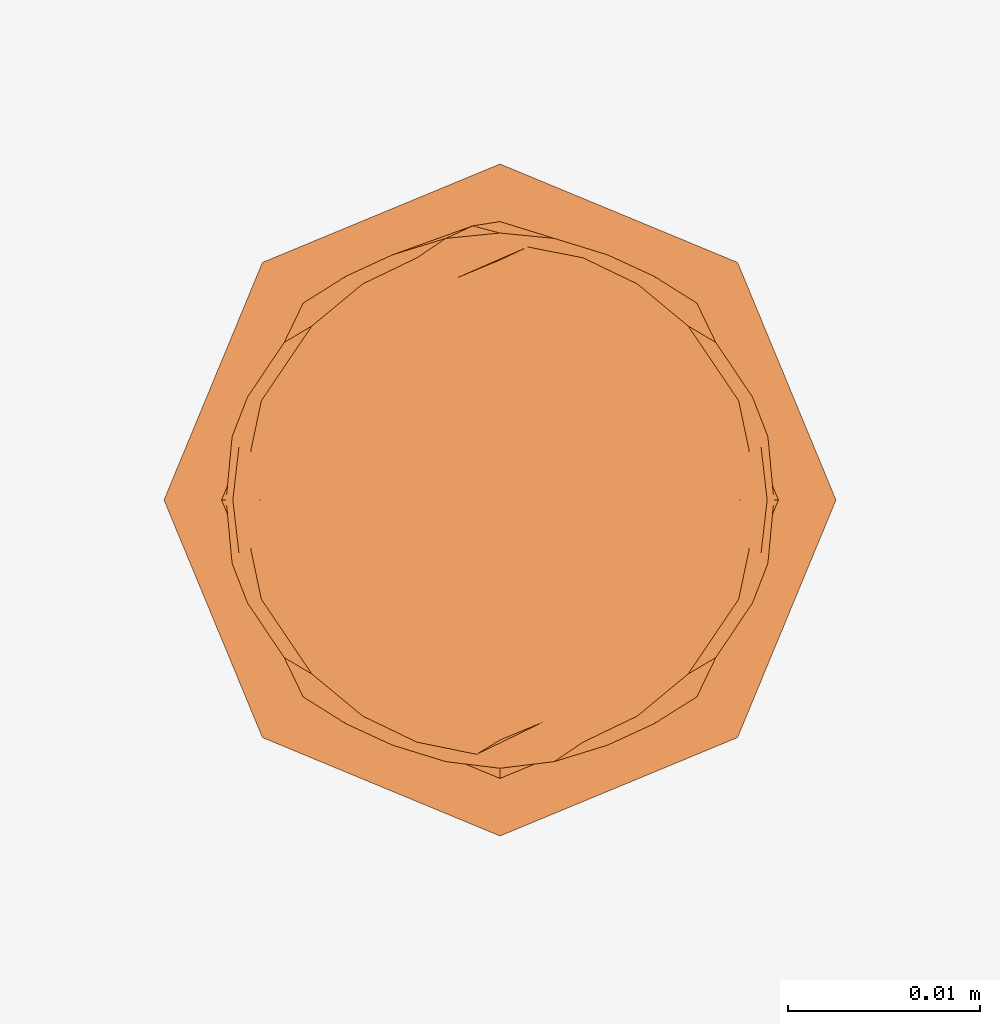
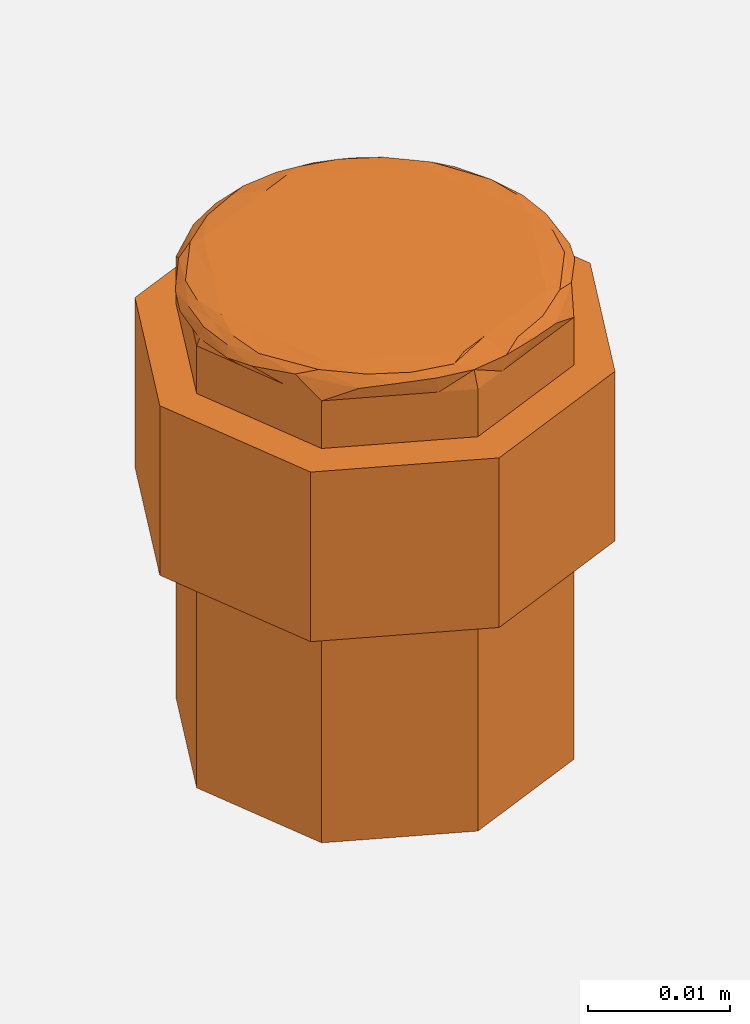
# One storey, part 4 of 6: 1 proxy.
"""IFC2X3 building model written with IfcOpenShell, lengths in millimetres."""

import ifcopenshell
import ifcopenshell.guid

model = None  # the IFC model being written
_history = None  # IfcOwnerHistory: only IFC2X3 demands one
_inside = {}  # id of a spatial element -> (the spatial element, [elements in it])
_under = {}  # id of a project, library or spatial element -> (it, [spatial elements below it])
_declared = {}  # id of a project -> (the project, [libraries it declares])
_typed = {}  # id of a type object -> (the type object, [elements of that type])
_made_of = {}  # id of a material, layer set ... -> (it, [elements and type objects made of it])


def new_model(schema):
    """Start an empty IFC model of exactly this schema.

    Asked for "IFC4X3", IfcOpenShell would pick the latest addendum, in which some entities
    have other attributes; the version numbers below select the first issue.
    IFC2X3 requires an IfcOwnerHistory on every rooted entity: one is made here for all.
    """
    global model, _history
    if schema == "IFC4X3":
        model = ifcopenshell.file(schema_version=(4, 3, 0, 0))
    else:
        model = ifcopenshell.file(schema=schema)
    _inside.clear()
    _under.clear()
    _declared.clear()
    _typed.clear()
    _made_of.clear()
    _history = None
    if model.schema == "IFC2X3":
        org = make("IfcOrganization", Name="unknown")
        user = make(
            "IfcPersonAndOrganization",
            ThePerson=make("IfcPerson", FamilyName="unknown"),
            TheOrganization=org,
        )
        app = make(
            "IfcApplication",
            ApplicationDeveloper=org,
            Version="unknown",
            ApplicationFullName="unknown",
            ApplicationIdentifier="unknown",
        )
        _history = make(
            "IfcOwnerHistory",
            OwningUser=user,
            OwningApplication=app,
            ChangeAction="ADDED",
            CreationDate=0,
        )
    return model


def make(cls, **values):
    """One entity of the class cls with the attributes given. An attribute that is None is left unset."""
    return model.create_entity(
        cls, **{name: value for name, value in values.items() if value is not None}
    )


def entity(cls, *values):
    """Any entity or typed value of the class cls, its attributes in the order of the schema. None: left unset."""
    e = model.create_entity(cls)
    for i, value in enumerate(values):
        if value is not None:
            e[i] = value
    return e


def rooted(cls, **values):
    """An entity with a GlobalId (a new one), such as an element, a storey or a relation."""
    return make(cls, GlobalId=ifcopenshell.guid.new(), OwnerHistory=_history, **values)


def si_unit(unit_type, name, prefix=None):
    """IfcSIUnit, for example si_unit("LENGTHUNIT", "METRE", prefix="MILLI")."""
    return make("IfcSIUnit", UnitType=unit_type, Prefix=prefix, Name=name)


def converted_unit(unit_type, name, factor, base, dimensions=None, offset=None):
    """IfcConversionBasedUnit, such as the inch: factor (a typed value) times the base unit."""
    return make(
        "IfcConversionBasedUnit"
        if offset is None
        else "IfcConversionBasedUnitWithOffset",
        ConversionOffset=offset,
        Dimensions=None
        if dimensions is None
        else entity("IfcDimensionalExponents", *dimensions),
        UnitType=unit_type,
        Name=name,
        ConversionFactor=make(
            "IfcMeasureWithUnit", ValueComponent=factor, UnitComponent=base
        ),
    )


def derived_unit(unit_type, elements):
    """IfcDerivedUnit: a product of units, each with its exponent."""
    return make(
        "IfcDerivedUnit",
        Elements=[
            make("IfcDerivedUnitElement", Unit=unit, Exponent=power)
            for unit, power in elements
        ],
        UnitType=unit_type,
    )


def assignment(units):
    """IfcUnitAssignment: the units of a project."""
    return None if units is None else make("IfcUnitAssignment", Units=units)


def point(xyz):
    """IfcCartesianPoint."""
    return None if xyz is None else make("IfcCartesianPoint", Coordinates=xyz)


def direction(xyz):
    """IfcDirection."""
    return None if xyz is None else make("IfcDirection", DirectionRatios=xyz)


def frame(location, z_axis=None, x_axis=None):
    """IfcAxis2Placement3D, a coordinate frame: its origin and axes. An axis left out is left unset."""
    return make(
        "IfcAxis2Placement3D",
        Location=point(location),
        Axis=direction(z_axis),
        RefDirection=direction(x_axis),
    )


def origin():
    """The frame at (0, 0, 0) with its axes left unset."""
    return frame((0.0, 0.0, 0.0))


def place(relative_to, where):
    """IfcLocalPlacement: puts the frame where relative to a parent placement (None: the world)."""
    return make(
        "IfcLocalPlacement", PlacementRelTo=relative_to, RelativePlacement=where
    )


def context(
    kind, dimensions, precision=None, world=None, true_north=None, identifier=None
):
    """IfcGeometricRepresentationContext, for example the 3D "Model" context."""
    return make(
        "IfcGeometricRepresentationContext",
        ContextIdentifier=identifier,
        ContextType=kind,
        CoordinateSpaceDimension=dimensions,
        Precision=precision,
        WorldCoordinateSystem=world,
        TrueNorth=true_north,
    )


def subcontext(parent, identifier, kind, view, scale=None):
    """IfcGeometricRepresentationSubContext, for example "Body" below "Model"."""
    return make(
        "IfcGeometricRepresentationSubContext",
        ContextIdentifier=identifier,
        ContextType=kind,
        ParentContext=parent,
        TargetScale=scale,
        TargetView=view,
    )


def project(units=None, contexts=None):
    """IfcProject with its units and contexts."""
    return rooted(
        "IfcProject",
        Name="project",
        RepresentationContexts=contexts,
        UnitsInContext=assignment(units),
    )


def spatial(cls, under=None, at=None, **own):
    """A site, building, storey or space (cls), placed at a placement, below another one or the project."""
    s = rooted(cls, ObjectPlacement=at, **own)
    if under is not None:
        _under.setdefault(under.id(), (under, []))[1].append(s)
    return s


def faces_of(points, faces, orient=None, outer=None):
    """IfcFace entities. A face is a list of loops; a loop is a list of indices into points, from 0.

    orient and outer hold one flag for each loop. By default every Orientation is true, the
    first loop of a face is its IfcFaceOuterBound and the others are IfcFaceBound.
    """
    made = []
    for i, loops in enumerate(faces):
        bounds = []
        for j, loop in enumerate(loops):
            is_outer = j == 0 if outer is None else outer[i][j]
            bounds.append(
                make(
                    "IfcFaceOuterBound" if is_outer else "IfcFaceBound",
                    Bound=make("IfcPolyLoop", Polygon=[points[k] for k in loop]),
                    Orientation=True if orient is None else orient[i][j],
                )
            )
        made.append(make("IfcFace", Bounds=bounds))
    return made


def faceted_brep(points, faces, orient=None, outer=None, voids=None):
    """IfcFacetedBrep: a solid bounded by flat faces; with voids (closed shells), ...WithVoids."""
    shared = [point(p) for p in points]
    hull = make("IfcClosedShell", CfsFaces=faces_of(shared, faces, orient, outer))
    if voids is None:
        return make("IfcFacetedBrep", Outer=hull)
    return make(
        "IfcFacetedBrepWithVoids",
        Outer=hull,
        Voids=[
            make(cls, CfsFaces=faces_of(shared, fs, o, b)) for cls, fs, o, b in voids
        ],
    )


def shape(context_of_items, identifier, shape_type, items):
    """IfcShapeRepresentation: the items that make up one representation, for example the "Body"."""
    return make(
        "IfcShapeRepresentation",
        ContextOfItems=context_of_items,
        RepresentationIdentifier=identifier,
        RepresentationType=shape_type,
        Items=items,
    )


def source(mapping_origin, context_of_items, identifier, shape_type, items):
    """IfcRepresentationMap: a shape defined once, which mapped items show again and again."""
    return make(
        "IfcRepresentationMap",
        MappingOrigin=mapping_origin,
        MappedRepresentation=shape(context_of_items, identifier, shape_type, items),
    )


def transform(
    local_origin,
    x_axis=None,
    y_axis=None,
    z_axis=None,
    scale=None,
    scale2=None,
    scale3=None,
    uniform=True,
):
    """IfcCartesianTransformationOperator3D, or its non-uniform kind. x_axis, y_axis, z_axis: its Axis1, 2, 3."""
    if uniform:
        return make(
            "IfcCartesianTransformationOperator3D",
            Axis1=direction(x_axis),
            Axis2=direction(y_axis),
            LocalOrigin=point(local_origin),
            Scale=scale,
            Axis3=direction(z_axis),
        )
    return make(
        "IfcCartesianTransformationOperator3DnonUniform",
        Axis1=direction(x_axis),
        Axis2=direction(y_axis),
        LocalOrigin=point(local_origin),
        Scale=scale,
        Axis3=direction(z_axis),
        Scale2=scale2,
        Scale3=scale3,
    )


def mapped(mapping_source, mapping_target):
    """IfcMappedItem: shows the shape of a source again, moved by a transform."""
    return make(
        "IfcMappedItem", MappingSource=mapping_source, MappingTarget=mapping_target
    )


def material(Name=None, Category=None):
    """IfcMaterial."""
    return make("IfcMaterial", Name=Name, Category=Category)


def made_of(thing, what):
    """Note that an element or type object is made of a material, layer set ...; save() writes the relation."""
    if what is not None:
        _made_of.setdefault(what.id(), (what, []))[1].append(thing)
    return thing


def type_object(cls, material=None, **own):
    """A type object (cls), such as IfcWallType, which elements share."""
    return made_of(rooted(cls, **own), material)


def type_shapes(of_type, sources):
    """Give a type object the sources (RepresentationMaps) that its elements show as mapped items."""
    of_type.RepresentationMaps = sources


def element(
    cls,
    number,
    at=None,
    inside=None,
    cuts=None,
    type_object=None,
    material=None,
    context=None,
    identifier="Body",
    shape_type=None,
    held_by="IfcProductDefinitionShape",
    body=None,
    shapes=None,
    **own,
):
    """One element of the class cls, such as IfcWall. Its Tag is "e" and its number.

    at: its placement. inside: the storey or other place that contains it. cuts: it is an
    opening in that element (IfcRelVoidsElement). A single representation is given by context,
    identifier, shape_type and body (its items); several are given by shapes. held_by: the class
    of the entity that holds the representations. save() writes the other relations.
    """
    e = rooted(cls, Tag="e%d" % number, ObjectPlacement=at, **own)
    if body is not None:
        shapes = [shape(context, identifier, shape_type, body)]
    if shapes is not None:
        e.Representation = make(held_by, Representations=shapes)
    if inside is not None:
        _inside.setdefault(inside.id(), (inside, []))[1].append(e)
    if cuts is not None:
        rooted(
            "IfcRelVoidsElement", RelatingBuildingElement=cuts, RelatedOpeningElement=e
        )
    if type_object is not None:
        _typed.setdefault(type_object.id(), (type_object, []))[1].append(e)
    return made_of(e, material)


def aggregate(whole, parts):
    """IfcRelAggregates: a whole, such as a stair, and the parts it consists of."""
    return rooted("IfcRelAggregates", RelatingObject=whole, RelatedObjects=parts)


def save(model, path):
    """Write the relations noted so far, then the file.

    IfcRelAggregates (storeys below a building ...), IfcRelContainedInSpatialStructure (elements
    in a storey), IfcRelDefinesByType, IfcRelAssociatesMaterial and IfcRelDeclares: one each for
    every whole, place, type object, material and project.
    """
    for whole, parts in _under.values():
        aggregate(whole, parts)
    for where, things in _inside.values():
        rooted(
            "IfcRelContainedInSpatialStructure",
            RelatedElements=things,
            RelatingStructure=where,
        )
    for kind, things in _typed.values():
        rooted("IfcRelDefinesByType", RelatedObjects=things, RelatingType=kind)
    for what, things in _made_of.values():
        rooted("IfcRelAssociatesMaterial", RelatedObjects=things, RelatingMaterial=what)
    for by, libraries in _declared.values():
        rooted("IfcRelDeclares", RelatingContext=by, RelatedDefinitions=libraries)
    model.write(path)


model = new_model("IFC2X3")

# Units and contexts
model_context = context("Model", 3, precision=0.01, world=origin(), true_north=direction((6.12303176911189e-17, 1.0)))
context_of_model = context(None, 3, precision=0.01, world=origin(), true_north=direction((6.12303176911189e-17, 1.0)))
body_context = subcontext(model_context, "Body", "Model", "MODEL_VIEW")
ifc_project = project(units=[si_unit("LENGTHUNIT", "METRE", prefix="MILLI"), si_unit("AREAUNIT", "SQUARE_METRE"), si_unit("VOLUMEUNIT", "CUBIC_METRE"), converted_unit("PLANEANGLEUNIT", "DEGREE", entity("IfcRatioMeasure", 0.0174532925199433), si_unit("PLANEANGLEUNIT", "RADIAN"), dimensions=[0, 0, 0, 0, 0, 0, 0]), si_unit("MASSUNIT", "GRAM", prefix="KILO"), derived_unit("MASSDENSITYUNIT", [(si_unit("MASSUNIT", "GRAM", prefix="KILO"), 1), (si_unit("LENGTHUNIT", "METRE"), -3)]), si_unit("TIMEUNIT", "SECOND"), si_unit("FREQUENCYUNIT", "HERTZ"), si_unit("THERMODYNAMICTEMPERATUREUNIT", "DEGREE_CELSIUS"), derived_unit("THERMALTRANSMITTANCEUNIT", [(si_unit("MASSUNIT", "GRAM", prefix="KILO"), 1), (si_unit("THERMODYNAMICTEMPERATUREUNIT", "KELVIN"), -1), (si_unit("TIMEUNIT", "SECOND"), -3)]), derived_unit("VOLUMETRICFLOWRATEUNIT", [(si_unit("LENGTHUNIT", "METRE"), 3), (si_unit("TIMEUNIT", "SECOND"), -1)]), si_unit("ELECTRICCURRENTUNIT", "AMPERE"), si_unit("ELECTRICVOLTAGEUNIT", "VOLT"), si_unit("POWERUNIT", "WATT"), si_unit("FORCEUNIT", "NEWTON", prefix="KILO"), si_unit("ILLUMINANCEUNIT", "LUX"), si_unit("LUMINOUSFLUXUNIT", "LUMEN"), si_unit("LUMINOUSINTENSITYUNIT", "CANDELA"), derived_unit("USERDEFINED", [(si_unit("MASSUNIT", "GRAM", prefix="KILO"), -1), (si_unit("LENGTHUNIT", "METRE"), -2), (si_unit("TIMEUNIT", "SECOND"), 3), (si_unit("LUMINOUSFLUXUNIT", "LUMEN"), 1)]), derived_unit("LINEARVELOCITYUNIT", [(si_unit("LENGTHUNIT", "METRE"), 1), (si_unit("TIMEUNIT", "SECOND"), -1)]), si_unit("PRESSUREUNIT", "PASCAL"), derived_unit("USERDEFINED", [(si_unit("LENGTHUNIT", "METRE"), -2), (si_unit("MASSUNIT", "GRAM", prefix="KILO"), 1), (si_unit("TIMEUNIT", "SECOND"), -2)])], contexts=[model_context, context_of_model])

# Site, building, storey
site_placement = place(None, origin())
site = spatial("IfcSite", under=ifc_project, at=site_placement, Name="Default", CompositionType="ELEMENT")
building_placement = place(site_placement, origin())
building = spatial("IfcBuilding", under=site, at=building_placement, Name="n/a", CompositionType="ELEMENT")
storey_placement = place(building_placement, origin())
storey = spatial("IfcBuildingStorey", under=building, at=storey_placement, Name="Level 0", CompositionType="ELEMENT", Elevation=0.0)

# Proxy
ifc_material = material(Name="DBLTD_Duten_Metal_BrushedStainlessSteel")
building_element_proxy_type = type_object("IfcBuildingElementProxyType", PredefinedType="NOTDEFINED", material=ifc_material)
shared_shape = source(origin(), body_context, "Body", "Brep", [
    faceted_brep([(0.0, 0.0, 40.0), (12.4999999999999, 0.0, 40.0), (11.5847086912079, 2.20970869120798, 40.0), (10.6694173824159, 4.41941738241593, 40.0), (9.75412607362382, 6.62912607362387, 40.0), (8.83883476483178, 8.83883476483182, 40.0), (6.62912607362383, 9.75412607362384, 40.0), (4.41941738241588, 10.6694173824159, 40.0), (2.20970869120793, 11.5847086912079, 40.0), (0.0, 12.4999999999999, 40.0), (-2.20970869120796, 11.5847086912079, 40.0), (-4.41941738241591, 10.6694173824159, 40.0), (-6.62912607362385, 9.75412607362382, 40.0), (-8.8388347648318, 8.83883476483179, 40.0), (-9.75412607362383, 6.62912607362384, 40.0), (-10.6694173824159, 4.41941738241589, 40.0), (-11.5847086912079, 2.20970869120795, 40.0), (-12.4999999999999, 0.0, 40.0), (-11.5847086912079, -2.20970869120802, 40.0), (11.5847086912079, -2.20970869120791, 40.0), (10.6694173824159, -4.41941738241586, 40.0), (9.75412607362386, -6.62912607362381, 40.0), (8.83883476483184, -8.83883476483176, 40.0), (6.62912607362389, -9.7541260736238, 40.0), (4.41941738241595, -10.6694173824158, 40.0), (2.20970869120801, -11.5847086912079, 40.0), (0.0, -12.4999999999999, 40.0), (-10.6694173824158, -4.41941738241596, 40.0), (-9.75412607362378, -6.6291260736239, 40.0), (-8.83883476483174, -8.83883476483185, 40.0), (-6.62912607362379, -9.75412607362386, 40.0), (-4.41941738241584, -10.6694173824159, 40.0), (-2.20970869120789, -11.5847086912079, 40.0), (-12.950502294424, 3.74081837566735, 38.0), (-11.6017753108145, 6.99693335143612, 38.0), (-11.516614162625, 7.20253055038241, 38.0), (-10.2530483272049, 10.2530483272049, 38.0), (-10.2530483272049, 10.2530483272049, 33.9043508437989), (-11.3147862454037, 7.68978624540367, 33.9043508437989), (-12.3765241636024, 5.12652416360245, 33.9043508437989), (-13.4382620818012, 2.56326208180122, 33.9043508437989), (-14.4999999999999, 0.0, 33.9043508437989), (-14.4999999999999, 0.0, 38.0), (-12.3765241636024, 5.12652416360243, 19.3243703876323), (-11.3147862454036, 7.68978624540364, 19.3243703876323), (-10.2530483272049, 10.2530483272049, 19.3243703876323), (-10.2530483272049, 10.2530483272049, 0.0), (-11.3147862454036, 7.68978624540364, 0.0), (-12.3765241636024, 5.12652416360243, 0.0), (-13.6883086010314, 1.95959638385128, 0.0), (-14.4999999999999, 0.0, 0.0), (-14.4999999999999, 0.0, 19.3243703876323), (-13.4382620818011, 2.56326208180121, 19.3243703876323), (5.12652416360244, 12.3765241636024, 38.0), (7.68978624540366, 11.3147862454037, 38.0), (10.2530483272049, 10.2530483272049, 38.0), (10.2530483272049, 10.2530483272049, 33.9043508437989), (7.68978624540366, 11.3147862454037, 33.9043508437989), (5.12652416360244, 12.3765241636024, 33.9043508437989), (2.56326208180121, 13.4382620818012, 33.9043508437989), (0.0, 14.5, 33.9043508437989), (0.0, 14.5, 38.0), (2.56326208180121, 13.4382620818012, 38.0), (2.56326208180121, 13.4382620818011, 0.0), (0.0, 14.4999999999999, 0.0), (0.0, 14.4999999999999, 19.3243703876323), (2.5632620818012, 13.4382620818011, 19.3243703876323), (5.12652416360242, 12.3765241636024, 19.3243703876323), (7.68978624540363, 11.3147862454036, 19.3243703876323), (10.2530483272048, 10.2530483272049, 19.3243703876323), (10.2530483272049, 10.2530483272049, 0.0), (7.68978624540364, 11.3147862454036, 0.0), (5.12652416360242, 12.3765241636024, 0.0), (-2.56326208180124, 13.4382620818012, 33.9043508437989), (-5.12652416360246, 12.3765241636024, 33.9043508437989), (-7.68978624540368, 11.3147862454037, 33.9043508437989), (-7.68978624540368, 11.3147862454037, 38.0), (-5.12652416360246, 12.3765241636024, 38.0), (-2.56326208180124, 13.4382620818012, 38.0), (-2.56326208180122, 13.4382620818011, 0.0), (-5.12652416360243, 12.3765241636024, 0.0), (-7.68978624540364, 11.3147862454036, 0.0), (-7.68978624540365, 11.3147862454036, 19.3243703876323), (-5.12652416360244, 12.3765241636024, 19.3243703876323), (-2.56326208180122, 13.4382620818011, 19.3243703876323), (11.3147862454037, 7.68978624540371, 38.0), (11.5166141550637, 7.20253056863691, 38.0), (12.3765241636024, 5.12652416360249, 38.0), (13.0083070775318, 3.60126528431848, 38.0), (13.4382620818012, 2.56326208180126, 38.0), (14.5, 0.0, 38.0), (14.5, 0.0, 33.9043508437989), (13.7252511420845, 1.87040920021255, 33.9043508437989), (12.3765241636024, 5.12652416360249, 33.9043508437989), (11.3147862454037, 7.68978624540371, 33.9043508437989), (12.3765241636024, 5.12652416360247, 19.3243703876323), (13.4382620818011, 2.56326208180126, 19.3243703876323), (14.4999999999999, 0.0, 19.3243703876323), (14.4999999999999, 0.0, 0.0), (13.6883085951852, 1.9595963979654, 0.0), (12.3765241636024, 5.12652416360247, 0.0), (11.3147862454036, 7.68978624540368, 0.0), (11.3147862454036, 7.68978624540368, 19.3243703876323), (12.9505023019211, -3.74081835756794, 38.0), (11.601775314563, -6.9969333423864, 38.0), (11.5166141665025, -7.2025305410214, 38.0), (10.253048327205, -10.2530483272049, 38.0), (10.253048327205, -10.2530483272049, 33.9043508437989), (11.3147862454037, -7.68978624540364, 33.9043508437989), (12.3765241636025, -5.12652416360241, 33.9043508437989), (13.4382620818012, -2.56326208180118, 33.9043508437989), (12.3765241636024, -5.12652416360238, 19.3243703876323), (11.3147862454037, -7.6897862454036, 19.3243703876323), (10.2530483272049, -10.2530483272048, 19.3243703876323), (10.2530483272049, -10.2530483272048, 0.0), (11.3147862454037, -7.6897862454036, 0.0), (12.3765241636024, -5.12652416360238, 0.0), (13.6883086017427, -1.95959638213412, 0.0), (13.4382620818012, -2.56326208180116, 19.3243703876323), (-5.12652416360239, -12.3765241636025, 38.0), (-7.68978624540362, -11.3147862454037, 38.0), (-10.2530483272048, -10.253048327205, 38.0), (-10.2530483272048, -10.253048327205, 33.9043508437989), (-7.6897862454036, -11.3147862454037, 33.9043508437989), (-5.12652416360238, -12.3765241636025, 33.9043508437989), (-2.56326208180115, -13.4382620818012, 33.9043508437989), (0.0, -14.5, 33.9043508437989), (0.0, -14.5, 38.0), (-2.56326208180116, -13.4382620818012, 38.0), (-2.56326208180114, -13.4382620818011, 0.0), (0.0, -14.4999999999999, 0.0), (0.0, -14.4999999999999, 19.3243703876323), (-2.56326208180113, -13.4382620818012, 19.3243703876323), (-5.12652416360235, -12.3765241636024, 19.3243703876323), (-7.68978624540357, -11.3147862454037, 19.3243703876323), (-10.2530483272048, -10.2530483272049, 19.3243703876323), (-10.2530483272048, -10.2530483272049, 0.0), (-7.68978624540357, -11.3147862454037, 0.0), (-5.12652416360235, -12.3765241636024, 0.0), (2.56326208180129, -13.4382620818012, 33.9043508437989), (5.12652416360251, -12.3765241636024, 33.9043508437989), (7.68978624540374, -11.3147862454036, 33.9043508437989), (7.68978624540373, -11.3147862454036, 38.0), (5.12652416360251, -12.3765241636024, 38.0), (2.56326208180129, -13.4382620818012, 38.0), (2.56326208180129, -13.4382620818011, 19.3243703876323), (2.5632620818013, -13.4382620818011, 0.0), (5.12652416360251, -12.3765241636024, 0.0), (7.68978624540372, -11.3147862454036, 0.0), (7.68978624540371, -11.3147862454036, 19.3243703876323), (5.1265241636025, -12.3765241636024, 19.3243703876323), (-11.3147862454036, -7.68978624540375, 38.0), (-11.5166141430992, -7.2025305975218, 38.0), (-12.3765241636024, -5.12652416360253, 38.0), (-13.0083070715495, -3.60126529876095, 38.0), (-13.4382620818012, -2.56326208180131, 38.0), (-13.7252511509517, -1.87040917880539, 33.9043508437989), (-12.3765241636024, -5.12652416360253, 33.9043508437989), (-11.3147862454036, -7.68978624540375, 33.9043508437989), (-13.4382620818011, -2.56326208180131, 0.0), (-12.3765241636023, -5.12652416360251, 0.0), (-11.3147862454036, -7.68978624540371, 0.0), (-11.3147862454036, -7.68978624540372, 19.3243703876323), (-12.3765241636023, -5.12652416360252, 19.3243703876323), (-13.6883083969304, -1.95959687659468, 19.3243703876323), (17.5000000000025, 0.0, 33.9043508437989), (16.073589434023, 3.44365973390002, 33.9043508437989), (14.9371843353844, 6.18718433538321, 33.9043508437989), (13.6557765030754, 9.28077650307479, 33.9043508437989), (12.3743686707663, 12.3743686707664, 33.9043508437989), (16.073589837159, -3.4436587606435, 33.9043508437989), (14.6471796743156, -6.88731752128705, 33.9043508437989), (12.3743686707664, -12.3743686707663, 33.9043508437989), (9.28077650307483, -13.6557765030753, 33.9043508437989), (6.18718433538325, -14.9371843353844, 33.9043508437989), (3.09359216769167, -16.2185921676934, 33.9043508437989), (0.0, -17.5000000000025, 33.9043508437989), (-3.0935921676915, -16.2185921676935, 33.9043508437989), (-6.18718433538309, -14.9371843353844, 33.9043508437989), (-9.28077650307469, -13.6557765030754, 33.9043508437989), (-12.3743686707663, -12.3743686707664, 33.9043508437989), (-13.6557765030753, -9.28077650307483, 33.9043508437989), (-14.9371843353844, -6.18718433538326, 33.9043508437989), (-16.2185921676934, -3.09359216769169, 33.9043508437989), (-17.5000000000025, 0.0, 33.9043508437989), (-16.0735898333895, 3.44365876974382, 33.9043508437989), (-14.6471796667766, 6.88731753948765, 33.9043508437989), (-12.3743686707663, 12.3743686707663, 33.9043508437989), (-9.28077650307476, 13.6557765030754, 33.9043508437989), (-6.18718433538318, 14.9371843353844, 33.9043508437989), (-3.0935921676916, 16.2185921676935, 33.9043508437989), (0.0, 17.5000000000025, 33.9043508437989), (9.28077650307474, 13.6557765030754, 33.9043508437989), (6.18718433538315, 14.9371843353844, 33.9043508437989), (3.09359216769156, 16.2185921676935, 33.9043508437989), (-12.3743686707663, 12.3743686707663, 19.3243703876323), (-13.6557765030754, 9.28077650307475, 19.3243703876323), (-14.9371843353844, 6.18718433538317, 19.3243703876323), (-16.0735898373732, 3.44365876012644, 19.3243703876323), (-17.5000000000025, 0.0, 19.3243703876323), (12.3743686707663, 12.3743686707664, 19.3243703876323), (9.28077650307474, 13.6557765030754, 19.3243703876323), (6.18718433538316, 14.9371843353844, 19.3243703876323), (3.09359216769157, 16.2185921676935, 19.3243703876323), (0.0, 17.5000000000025, 19.3243703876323), (-3.0935921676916, 16.2185921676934, 19.3243703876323), (-6.18718433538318, 14.9371843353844, 19.3243703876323), (-9.28077650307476, 13.6557765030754, 19.3243703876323), (17.5000000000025, 0.0, 19.3243703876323), (16.2185921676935, 3.09359216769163, 19.3243703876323), (14.9371843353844, 6.18718433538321, 19.3243703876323), (13.6557765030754, 9.28077650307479, 19.3243703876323), (12.3743686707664, -12.3743686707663, 19.3243703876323), (13.6557765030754, -9.2807765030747, 19.3243703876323), (14.9371843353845, -6.18718433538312, 19.3243703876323), (16.0735898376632, -3.44365875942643, 19.3243703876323), (-12.3743686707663, -12.3743686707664, 19.3243703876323), (-9.28077650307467, -13.6557765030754, 19.3243703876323), (-6.18718433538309, -14.9371843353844, 19.3243703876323), (-3.0935921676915, -16.2185921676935, 19.3243703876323), (0.0, -17.5000000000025, 19.3243703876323), (3.09359216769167, -16.2185921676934, 19.3243703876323), (6.18718433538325, -14.9371843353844, 19.3243703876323), (9.28077650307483, -13.6557765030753, 19.3243703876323), (-16.0735898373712, -3.44365876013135, 19.3243703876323), (-14.9371843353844, -6.18718433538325, 19.3243703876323), (-13.6557765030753, -9.28077650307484, 19.3243703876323), (0.0, 0.0, 0.0), (-12.4314051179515, 5.16568676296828, 39.7534674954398), (-11.2389438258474, 8.20649002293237, 39.4122346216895), (-13.1507723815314, 5.36238253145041, 39.050265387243), (-8.04353540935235, 11.6412871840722, 39.1304960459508), (-9.80282020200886, 9.05817085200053, 39.8117338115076), (2.82724322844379, 13.6239507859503, 39.414213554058), (-1.4248719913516, 14.2768319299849, 38.7653668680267), (-3.08766957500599e-08, 13.9056281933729, 39.4227471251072), (1.44759942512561, 13.1805158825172, 39.85006678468), (-13.9532900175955, 3.29682081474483, 38.789726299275), (-13.6017600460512, 2.7163169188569, 39.4567690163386), (11.2389438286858, 8.20649002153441, 39.4122346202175), (13.1507723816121, 5.3623825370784, 39.0502653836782), (-7.1408022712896, 11.2589901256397, 39.8184942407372), (-5.61838125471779, 12.7630187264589, 39.3828231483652), (8.04353539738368, 11.6412871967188, 39.1304960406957), (12.4314051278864, 5.16568673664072, 39.753467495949), (5.61838122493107, 12.763018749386, 39.3828231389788), (13.6017600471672, 2.71631692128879, 39.4567690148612), (12.9759591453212, 2.57342706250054, 39.8625309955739), (13.2071067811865, 0.0, 39.7071067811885), (9.80282019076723, 9.05817087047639, 39.8117338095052), (7.14080220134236, 11.2589901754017, 39.8184942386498), (-2.8272432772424, 13.6239507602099, 39.414213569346), (4.32518454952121, 12.6124588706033, 39.8180574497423), (-13.914213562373, 0.0, 39.4142135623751), (-12.9759591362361, 2.57342707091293, 39.8625309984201), (13.953290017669, 3.29682081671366, 38.7897262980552), (-4.32518462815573, 12.6124588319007, 39.8180574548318), (-13.2071067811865, 0.0, 39.7071067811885), (-14.2630011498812, 0.0, 38.5721658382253), (14.2630011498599, 0.0, 38.5721658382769), (13.914213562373, 0.0, 39.4142135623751), (12.4314051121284, -5.16568677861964, 39.7534674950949), (11.2389438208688, -8.20649002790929, 39.4122346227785), (13.1507723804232, -5.36238253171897, 39.0502653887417), (8.04353540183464, -11.641287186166, 39.1304960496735), (5.61838124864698, -12.7630187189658, 39.3828231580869), (-1.22138553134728, -13.2434198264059, 39.8331951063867), (-4.32518438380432, -12.6124589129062, 39.8180574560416), (-2.8272431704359, -13.6239508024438, 39.4142135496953), (9.80282020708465, -9.05817084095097, 39.8117338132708), (-11.2389438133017, -8.20649004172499, 39.4122346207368), (-13.1507723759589, -5.36238256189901, 39.0502653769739), (7.14080229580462, -11.2589901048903, 39.818494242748), (-8.04353535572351, -11.6412872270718, 39.130496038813), (13.9532900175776, -3.29682081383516, 38.7897262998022), (13.6017600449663, -2.71631691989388, 39.4567690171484), (-12.431405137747, -5.16568672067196, 39.7534674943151), (-13.6017600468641, -2.71631693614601, 39.4567690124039), (-12.9759591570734, -2.57342706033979, 39.8625309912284), (-9.8028201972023, -9.05817085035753, 39.8117338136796), (-5.61838116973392, -12.7630187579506, 39.3828231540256), (5.78256422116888e-08, -13.9745347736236, 39.3512021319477), (2.82724327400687, -13.6239507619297, 39.4142135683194), (-7.1408021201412, -11.2589902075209, 39.8184942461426), (12.9759591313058, -2.57342707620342, 39.8625309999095), (-13.9532900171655, -3.29682082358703, 38.7897262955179), (4.3251845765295, -12.6124588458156, 39.818057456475)], [[[0, 1, 2]], [[0, 2, 3]], [[0, 3, 4]], [[0, 4, 5]], [[0, 5, 6]], [[0, 6, 7]], [[0, 7, 8]], [[0, 8, 9]], [[0, 9, 10]], [[0, 10, 11]], [[0, 11, 12]], [[0, 12, 13]], [[0, 13, 14]], [[0, 14, 15]], [[0, 15, 16]], [[0, 16, 17]], [[0, 17, 18]], [[0, 19, 1]], [[0, 20, 19]], [[0, 21, 20]], [[0, 22, 21]], [[0, 23, 22]], [[0, 24, 23]], [[0, 25, 24]], [[0, 26, 25]], [[0, 18, 27]], [[0, 27, 28]], [[0, 28, 29]], [[0, 29, 30]], [[0, 30, 31]], [[0, 31, 32]], [[0, 32, 26]], [[33, 34, 35, 36, 37, 38, 39, 40, 41, 42]], [[43, 44, 45, 46, 47, 48, 49, 50, 51, 52]], [[53, 54, 55, 56, 57, 58, 59, 60, 61, 62]], [[63, 64, 65, 66, 67, 68, 69, 70, 71, 72]], [[61, 60, 73, 74, 75, 37, 36, 76, 77, 78]], [[79, 80, 81, 46, 45, 82, 83, 84, 65, 64]], [[56, 55, 85, 86, 87, 88, 89, 90, 91, 92, 93, 94]], [[95, 96, 97, 98, 99, 100, 101, 70, 69, 102]], [[103, 104, 105, 106, 107, 108, 109, 110, 91, 90]], [[111, 112, 113, 114, 115, 116, 117, 98, 97, 118]], [[119, 120, 121, 122, 123, 124, 125, 126, 127, 128]], [[129, 130, 131, 132, 133, 134, 135, 136, 137, 138]], [[127, 126, 139, 140, 141, 107, 106, 142, 143, 144]], [[145, 131, 130, 146, 147, 148, 114, 113, 149, 150]], [[122, 121, 151, 152, 153, 154, 155, 42, 41, 156, 157, 158]], [[51, 50, 159, 160, 161, 136, 135, 162, 163, 164]], [[91, 165, 166]], [[91, 166, 167]], [[91, 167, 168]], [[91, 168, 169]], [[169, 92, 91]], [[91, 170, 165]], [[91, 171, 170]], [[91, 172, 171]], [[172, 91, 110]], [[172, 110, 109]], [[172, 109, 108]], [[172, 108, 107]], [[107, 173, 172]], [[107, 174, 173]], [[107, 175, 174]], [[107, 176, 175]], [[176, 107, 141]], [[176, 141, 140]], [[176, 140, 139]], [[176, 139, 126]], [[176, 126, 125]], [[176, 125, 124]], [[176, 124, 123]], [[176, 123, 122]], [[122, 177, 176]], [[122, 178, 177]], [[122, 179, 178]], [[122, 180, 179]], [[180, 122, 158]], [[180, 158, 157]], [[180, 157, 156]], [[180, 156, 41]], [[41, 181, 180]], [[41, 182, 181]], [[41, 183, 182]], [[41, 184, 183]], [[41, 185, 184]], [[41, 186, 185]], [[41, 187, 186]], [[187, 41, 40]], [[187, 40, 39]], [[187, 39, 38]], [[187, 38, 37]], [[37, 188, 187]], [[37, 189, 188]], [[37, 190, 189]], [[37, 191, 190]], [[191, 37, 75]], [[191, 75, 74]], [[191, 74, 73]], [[191, 73, 60]], [[191, 60, 59]], [[191, 59, 58]], [[191, 58, 57]], [[191, 57, 56]], [[56, 169, 192]], [[169, 56, 94]], [[56, 192, 193]], [[56, 193, 194]], [[56, 194, 191]], [[169, 94, 93]], [[169, 93, 92]], [[185, 186, 187, 195, 196, 197, 198, 199, 184]], [[193, 192, 169, 200, 201, 202, 203, 204, 191, 194]], [[189, 190, 191, 204, 205, 206, 207, 195, 187, 188]], [[200, 169, 168, 167, 166, 165, 208, 209, 210, 211]], [[170, 171, 172, 212, 213, 214, 215, 208, 165]], [[178, 179, 180, 216, 217, 218, 219, 220, 176, 177]], [[174, 175, 176, 220, 221, 222, 223, 212, 172, 173]], [[216, 180, 181, 182, 183, 184, 199, 224, 225, 226]], [[97, 200, 211]], [[200, 97, 96]], [[97, 211, 210]], [[97, 210, 209]], [[97, 209, 208]], [[97, 208, 215]], [[97, 215, 214]], [[97, 214, 213]], [[97, 213, 212]], [[212, 118, 97]], [[200, 96, 95]], [[200, 95, 102]], [[200, 102, 69]], [[69, 201, 200]], [[69, 202, 201]], [[69, 203, 202]], [[69, 204, 203]], [[204, 69, 68]], [[204, 68, 67]], [[204, 67, 66]], [[204, 66, 65]], [[204, 65, 84]], [[204, 84, 83]], [[204, 83, 82]], [[204, 82, 45]], [[45, 205, 204]], [[45, 206, 205]], [[45, 207, 206]], [[45, 195, 207]], [[195, 45, 44]], [[195, 44, 43]], [[195, 43, 52]], [[195, 52, 51]], [[51, 196, 195]], [[51, 197, 196]], [[51, 198, 197]], [[51, 199, 198]], [[51, 224, 199]], [[51, 225, 224]], [[51, 226, 225]], [[51, 216, 226]], [[216, 51, 164]], [[216, 164, 163]], [[216, 163, 162]], [[216, 162, 135]], [[135, 217, 216]], [[135, 218, 217]], [[135, 219, 218]], [[135, 220, 219]], [[220, 135, 134]], [[220, 134, 133]], [[220, 133, 132]], [[220, 132, 131]], [[220, 131, 145]], [[220, 145, 150]], [[220, 150, 149]], [[220, 149, 113]], [[113, 212, 223]], [[212, 113, 112]], [[113, 223, 222]], [[113, 222, 221]], [[113, 221, 220]], [[212, 112, 111]], [[212, 111, 118]], [[227, 70, 101]], [[227, 101, 100]], [[227, 100, 99]], [[227, 99, 98]], [[227, 98, 117]], [[227, 71, 70]], [[227, 72, 71]], [[227, 63, 72]], [[227, 64, 63]], [[227, 79, 64]], [[227, 80, 79]], [[227, 81, 80]], [[227, 46, 81]], [[227, 47, 46]], [[227, 48, 47]], [[227, 49, 48]], [[227, 50, 49]], [[227, 117, 116]], [[227, 116, 115]], [[227, 115, 114]], [[227, 114, 148]], [[227, 148, 147]], [[227, 147, 146]], [[227, 146, 130]], [[227, 130, 129]], [[227, 159, 50]], [[227, 160, 159]], [[227, 161, 160]], [[227, 136, 161]], [[227, 129, 138]], [[227, 138, 137]], [[227, 137, 136]], [[228, 229, 230]], [[231, 77, 76, 36]], [[14, 13, 232, 15]], [[35, 230, 229]], [[233, 234, 235]], [[235, 236, 233]], [[230, 35, 34, 33]], [[237, 238, 230]], [[239, 240, 86]], [[241, 242, 231]], [[243, 55, 54, 53]], [[244, 240, 239]], [[62, 245, 53]], [[239, 86, 85, 55]], [[246, 247, 248]], [[3, 249, 5, 4]], [[229, 231, 36]], [[35, 229, 36]], [[249, 3, 244]], [[243, 239, 55]], [[231, 242, 77]], [[234, 61, 78]], [[5, 249, 250]], [[232, 228, 15]], [[242, 251, 234]], [[61, 233, 62]], [[245, 252, 250]], [[238, 237, 253]], [[254, 17, 16]], [[240, 88, 87, 86]], [[255, 88, 240]], [[246, 255, 240]], [[231, 232, 241]], [[256, 10, 251]], [[238, 253, 257]], [[254, 228, 238]], [[238, 228, 230]], [[257, 254, 238]], [[33, 42, 258]], [[237, 230, 33]], [[228, 16, 15]], [[33, 258, 237]], [[253, 237, 258]], [[17, 254, 257]], [[16, 228, 254]], [[247, 1, 248]], [[259, 255, 260]], [[246, 248, 260]], [[244, 3, 2]], [[244, 246, 240]], [[259, 90, 89, 88]], [[247, 246, 244]], [[260, 255, 246]], [[259, 88, 255]], [[244, 2, 247]], [[1, 247, 2]], [[232, 229, 228]], [[241, 232, 13]], [[231, 229, 232]], [[241, 13, 12, 11]], [[242, 256, 251]], [[256, 241, 11]], [[78, 242, 234]], [[235, 234, 251]], [[77, 242, 78]], [[244, 239, 249]], [[235, 251, 10]], [[236, 9, 8]], [[236, 8, 252]], [[241, 256, 242]], [[236, 10, 9]], [[256, 11, 10]], [[235, 10, 236]], [[252, 8, 7]], [[239, 243, 249]], [[250, 249, 243]], [[245, 250, 243]], [[250, 7, 6, 5]], [[53, 245, 243]], [[252, 245, 233]], [[236, 252, 233]], [[250, 252, 7]], [[234, 233, 61]], [[245, 62, 233]], [[261, 262, 263]], [[264, 143, 142, 106]], [[264, 265, 143]], [[105, 263, 262]], [[26, 32, 266]], [[266, 267, 268]], [[105, 262, 106]], [[21, 22, 269, 20]], [[270, 271, 152]], [[272, 265, 264]], [[273, 121, 120, 119]], [[274, 275, 263]], [[276, 271, 270]], [[270, 152, 151, 121]], [[277, 278, 257]], [[27, 279, 29, 28]], [[279, 27, 276]], [[263, 105, 104, 103]], [[128, 280, 119]], [[273, 270, 121]], [[262, 264, 106]], [[266, 281, 282]], [[29, 279, 283]], [[269, 261, 20]], [[144, 265, 282]], [[281, 128, 127]], [[280, 267, 283]], [[275, 274, 260]], [[284, 1, 19]], [[271, 154, 153, 152]], [[285, 154, 271]], [[277, 285, 271]], [[264, 269, 272]], [[286, 25, 282]], [[275, 260, 248]], [[284, 261, 275]], [[275, 261, 263]], [[248, 284, 275]], [[103, 90, 259]], [[274, 263, 103]], [[261, 19, 20]], [[103, 259, 274]], [[260, 274, 259]], [[1, 284, 248]], [[19, 261, 284]], [[278, 17, 257]], [[258, 285, 253]], [[277, 257, 253]], [[276, 27, 18]], [[276, 277, 271]], [[258, 42, 155, 154]], [[278, 277, 276]], [[253, 285, 277]], [[258, 154, 285]], [[276, 18, 278]], [[17, 278, 18]], [[269, 262, 261]], [[272, 269, 22]], [[264, 262, 269]], [[272, 22, 23, 24]], [[265, 286, 282]], [[286, 272, 24]], [[281, 144, 282]], [[272, 286, 265]], [[143, 265, 144]], [[26, 266, 25]], [[286, 24, 25]], [[276, 270, 279]], [[270, 273, 279]], [[283, 279, 273]], [[280, 283, 273]], [[283, 31, 30, 29]], [[119, 280, 273]], [[267, 280, 268]], [[281, 266, 268]], [[283, 267, 31]], [[266, 32, 267]], [[32, 31, 267]], [[25, 266, 282]], [[281, 268, 128]], [[144, 281, 127]], [[280, 128, 268]]]),
])
type_shapes(building_element_proxy_type, [shared_shape])
proxy_placement = place(storey_placement, frame((2361.82825147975, 205.110676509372, 0.0)))
element("IfcBuildingElementProxy", 1, at=proxy_placement, inside=storey, type_object=building_element_proxy_type, material=ifc_material, Name="(11)", ObjectType="DBLTD_Duten_DoorStops_Q965:Brushed Stainless Steel Door Stop", context=body_context, shape_type="MappedRepresentation", body=[
    mapped(shared_shape, transform((0.0, 0.0, 0.0), scale=1.0)),
])

save(model, "model.ifc")
